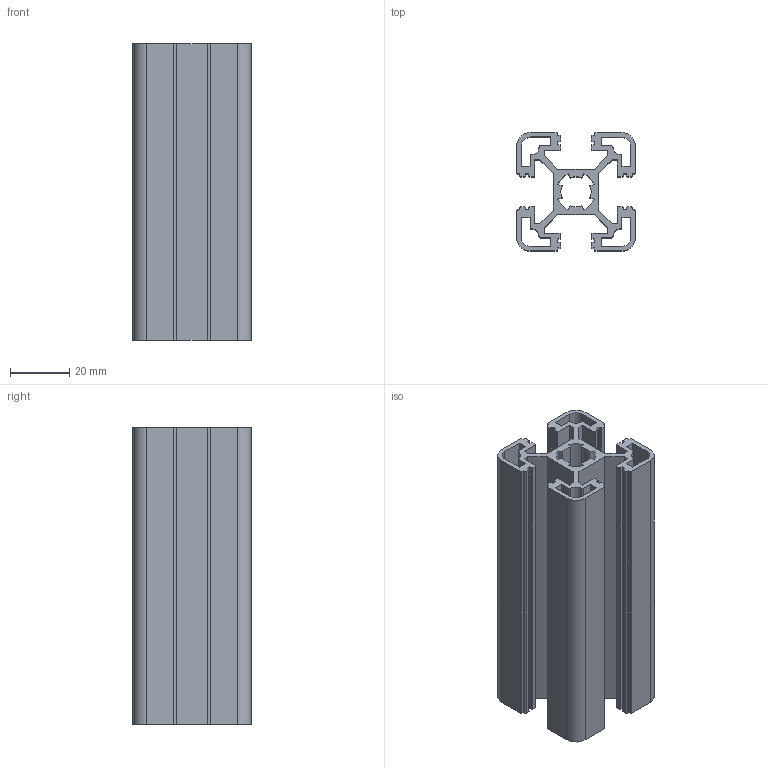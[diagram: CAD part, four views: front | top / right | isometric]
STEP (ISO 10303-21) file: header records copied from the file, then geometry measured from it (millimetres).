
FILE_DESCRIPTION((''),'2;1');
FILE_NAME('E:\catalogue and flyer\Profile catalogue 2015\profile-step file,31MAr16\PS4040L-10.stp','2016-03-31T14:13:30',('h029'),(''),'Autodesk Inventor 11','Autodesk Inventor 11','');
FILE_SCHEMA(('AUTOMOTIVE_DESIGN { 1 0 10303 214 1 1 1 1 }'));
Length unit declared in the file: millimetre
Products named in the file (1): PS4040L-10
Bounding box: 40 x 40 x 100 mm (x, y, z)
Volume: 51830.6 mm3; surface area: 53800.5 mm2
Topology: 1 solids, 1 shells, 194 faces, 576 edges, 384 vertices
Faces by surface type: plane 126, cylinder 64, bspline 4
Entity records: 6591 total; most frequent: CARTESIAN_POINT 1223, ORIENTED_EDGE 1152, DIRECTION 1094, EDGE_CURVE 576, VECTOR 440, LINE 440, VERTEX_POINT 384, AXIS2_PLACEMENT_3D 327
